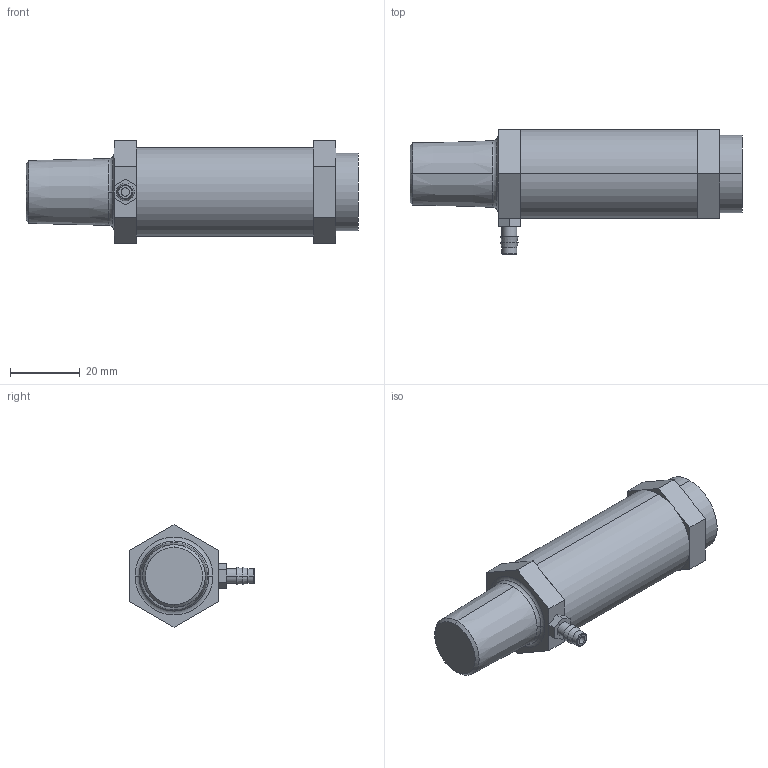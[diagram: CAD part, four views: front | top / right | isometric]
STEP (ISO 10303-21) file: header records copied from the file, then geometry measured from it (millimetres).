
FILE_DESCRIPTION((''),'2;1');
FILE_NAME('XD2_ASM','2017-08-24T',('jennifer.elliott'),('CenterLine (Windsor) Ltd - Automation Components Division'),'PRO/ENGINEER BY PARAMETRIC TECHNOLOGY CORPORATION, 2015030','PRO/ENGINEER BY PARAMETRIC TECHNOLOGY CORPORATION, 2015030','');
FILE_SCHEMA(('AUTOMOTIVE_DESIGN { 1 0 10303 214 1 1 1 1 }'));
Length unit declared in the file: inch
Products named in the file (6): PRT0998; PRT0999; PRT1000; PRT1001; PRT1002; XD2_ASM
Assembly tree (5 placements, depth 2):
  XD2_ASM
    PRT0998
    PRT0999
    PRT1000
    PRT1001
    PRT1002
Bounding box: 95.12 x 35.71 x 29.33 mm (x, y, z)
Volume: 42320.4 mm3; surface area: 11325.5 mm2
Topology: 5 solids, 5 shells, 58 faces, 123 edges, 79 vertices
Faces by surface type: plane 32, cylinder 10, torus 8, cone 8
Entity records: 1951 total; most frequent: DIRECTION 312, CARTESIAN_POINT 287, ORIENTED_EDGE 246, EDGE_CURVE 123, AXIS2_PLACEMENT_3D 120, VERTEX_POINT 79, VECTOR 72, LINE 72
